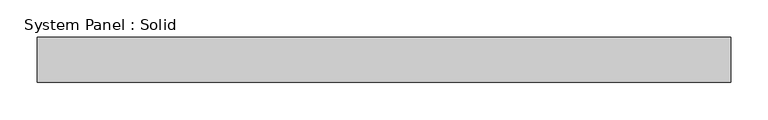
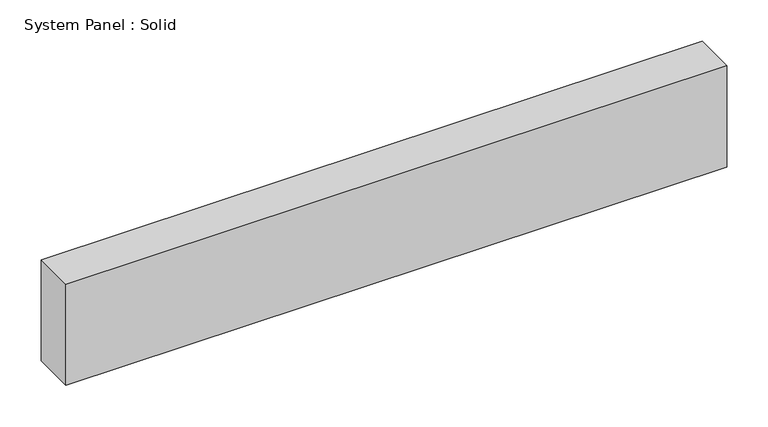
"""IFC4 building model written with IfcOpenShell, lengths in millimetres: plate geometry, System Panel : Solid."""

from ifc_helpers import new_model, si_unit, origin, origin_with_axes, place, context, project, spatial, polyline, outline, extrude, source, transform, mapped, element, save


def system_panel_solid_eb1a4a87(model_context):
    return source(origin(), model_context, "Body", "SweptSolid", [
        extrude(outline(polyline([(462.5, -10.5), (-462.5, -10.5), (-462.5, 49.5), (462.5, 49.5), (462.5, -10.5)])), origin_with_axes(), (0.0, 0.0, 1.0), 150.0),
    ])


if __name__ == "__main__":
    model = new_model("IFC4")
    model_context = context("Model", 3, world=origin())
    ifc_project = project(units=[si_unit("LENGTHUNIT", "METRE", prefix="MILLI")], contexts=[model_context])
    site = spatial("IfcSite", under=ifc_project)
    building = spatial("IfcBuilding", under=site)
    placement = place(None, origin())
    system_panel_solid_shape = system_panel_solid_eb1a4a87(model_context)
    element("IfcPlate", 1, ObjectType="System Panel : Solid", at=placement, inside=building, context=model_context, shape_type="MappedRepresentation", body=[
        mapped(system_panel_solid_shape, transform((0.0, 0.0, 0.0), x_axis=(1.0, 0.0, 0.0), y_axis=(0.0, 1.0, 0.0), z_axis=(0.0, 0.0, 1.0))),
    ])
    save(model, "model.ifc")
